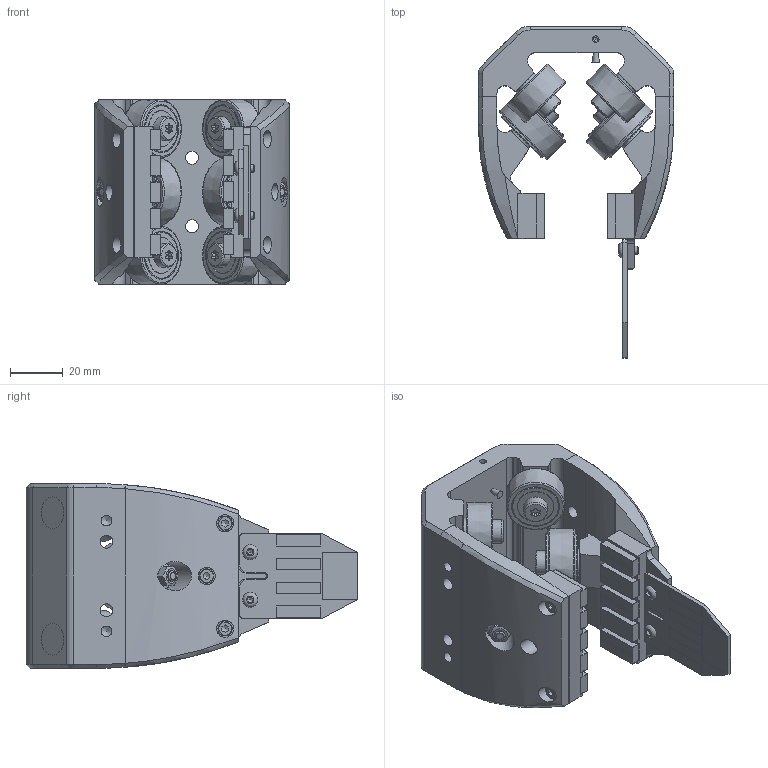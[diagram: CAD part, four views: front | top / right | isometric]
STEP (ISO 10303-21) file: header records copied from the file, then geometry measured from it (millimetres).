
FILE_DESCRIPTION(/* description */ (''),/* implementation_level */ '2;1');
FILE_NAME(/* name */ 'Z:\Entwicklung\XTS\Mechanik\XTS-Stand 1_1\00_Public_Datensatz\Mover\AT9011-0070-0550\142044_AT9011-0070-0550_public.stp',/* time_stamp */ '2015-10-08T11:30:36+02:00',/* author */ ('JoergN'),/* organization */ ('Beckhoff Automation GmbH & Co. KG'),/* preprocessor_version */ 'ST-DEVELOPER v15.6',/* originating_system */ 'Autodesk Inventor 2015',/* authorisation */ '');
FILE_SCHEMA (('CONFIG_CONTROL_DESIGN'));
Length unit declared in the file: millimetre
Products named in the file (1): 142044_AT9011-0070-0550
Bounding box: 74 x 125.85 x 70 mm (x, y, z)
Volume: 173080.5 mm3; surface area: 53298.4 mm2
Topology: 1 solids, 13 shells, 1101 faces, 2772 edges, 1683 vertices
Faces by surface type: plane 518, cylinder 345, sphere 80, torus 66, bspline 50, cone 42
Full cylindrical faces by diameter (mm): 2.459 x1, 3 x2, 3.3 x1, 4 x8, 4.6 x2, 4.917 x6, 5 x8, 5.5 x6, 5.7 x2, 6.5 x6, 8.5 x4, 9 x6, 10 x6, 11 x2, 13.8 x8, 16.5 x4, 18.2 x8, 22 x4
Entity records: 32811 total; most frequent: CARTESIAN_POINT 6557, DIRECTION 5241, ORIENTED_EDGE 4874, EDGE_CURVE 2437, AXIS2_PLACEMENT_3D 1942, VERTEX_POINT 1608, EDGE_LOOP 1437, LINE 1357
